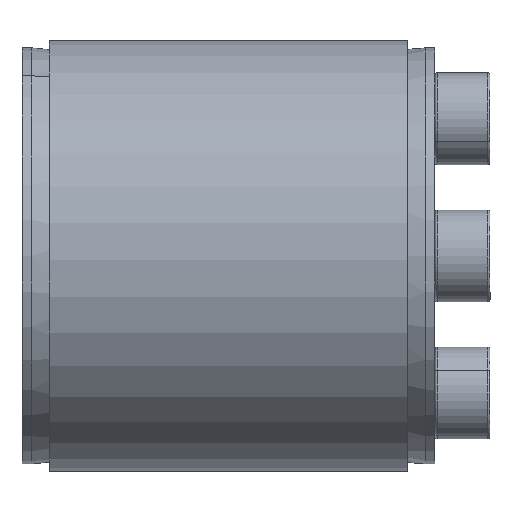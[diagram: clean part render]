
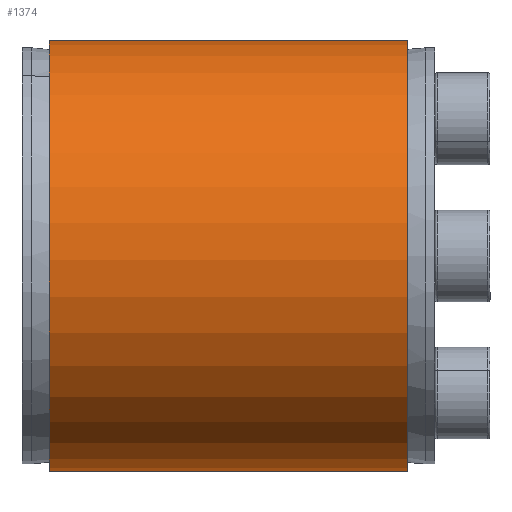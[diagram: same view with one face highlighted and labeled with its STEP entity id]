
A CAD part, front view. The second image highlights one B-rep face of the part: STEP entity #1374.
In plain terms, the highlighted cylindrical face has radius 23.5 mm (diameter 47 mm), a partial arc.
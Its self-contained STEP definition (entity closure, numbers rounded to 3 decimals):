
#38 = ORIENTED_EDGE ( 'NONE', *, *, #896, .F. ) ;
#43 = VECTOR ( 'NONE', #5703, 1000. ) ;
#149 = LINE ( 'NONE', #3879, #3641 ) ;
#263 = VERTEX_POINT ( 'NONE', #406 ) ;
#406 = CARTESIAN_POINT ( 'NONE',  ( -19.5, -1., 23.479 ) ) ;
#758 = CIRCLE ( 'NONE', #4268, 23.5 ) ;
#816 = CARTESIAN_POINT ( 'NONE',  ( -34.186, 0., 0. ) ) ;
#829 = AXIS2_PLACEMENT_3D ( 'NONE', #816, #2124, #2554 ) ;
#871 = CARTESIAN_POINT ( 'NONE',  ( -34.186, 1., 23.479 ) ) ;
#879 = ORIENTED_EDGE ( 'NONE', *, *, #2741, .F. ) ;
#896 = EDGE_CURVE ( 'NONE', #263, #1810, #149, .T. ) ;
#1027 = CYLINDRICAL_SURFACE ( 'NONE', #829, 23.5 ) ;
#1047 = EDGE_CURVE ( 'NONE', #4207, #1810, #758, .T. ) ;
#1374 = ADVANCED_FACE ( 'NONE', ( #3782 ), #1027, .T. ) ;
#1485 = CARTESIAN_POINT ( 'NONE',  ( 19.5, -1., 23.479 ) ) ;
#1716 = DIRECTION ( 'NONE',  ( 1., 0., 0. ) ) ;
#1810 = VERTEX_POINT ( 'NONE', #1485 ) ;
#2124 = DIRECTION ( 'NONE',  ( -1., 0., 0. ) ) ;
#2257 = DIRECTION ( 'NONE',  ( -1., 0., 0. ) ) ;
#2337 = DIRECTION ( 'NONE',  ( -1., 0., 0. ) ) ;
#2554 = DIRECTION ( 'NONE',  ( 0., 0., 1. ) ) ;
#2741 = EDGE_CURVE ( 'NONE', #4207, #4822, #4718, .T. ) ;
#2999 = EDGE_CURVE ( 'NONE', #4822, #263, #5686, .T. ) ;
#3041 = EDGE_LOOP ( 'NONE', ( #879, #3777, #38, #5281 ) ) ;
#3287 = CARTESIAN_POINT ( 'NONE',  ( 19.5, 1., 23.479 ) ) ;
#3641 = VECTOR ( 'NONE', #1716, 1000. ) ;
#3777 = ORIENTED_EDGE ( 'NONE', *, *, #1047, .T. ) ;
#3782 = FACE_OUTER_BOUND ( 'NONE', #3041, .T. ) ;
#3879 = CARTESIAN_POINT ( 'NONE',  ( -34.186, -1., 23.479 ) ) ;
#4207 = VERTEX_POINT ( 'NONE', #3287 ) ;
#4268 = AXIS2_PLACEMENT_3D ( 'NONE', #5440, #2337, #4983 ) ;
#4670 = CARTESIAN_POINT ( 'NONE',  ( -19.5, 1., 23.479 ) ) ;
#4718 = LINE ( 'NONE', #871, #43 ) ;
#4822 = VERTEX_POINT ( 'NONE', #4670 ) ;
#4905 = CARTESIAN_POINT ( 'NONE',  ( -19.5, 0., 0. ) ) ;
#4983 = DIRECTION ( 'NONE',  ( 0., 0., 1. ) ) ;
#5281 = ORIENTED_EDGE ( 'NONE', *, *, #2999, .F. ) ;
#5361 = DIRECTION ( 'NONE',  ( 0., 0., 1. ) ) ;
#5370 = AXIS2_PLACEMENT_3D ( 'NONE', #4905, #2257, #5361 ) ;
#5440 = CARTESIAN_POINT ( 'NONE',  ( 19.5, 0., 0. ) ) ;
#5686 = CIRCLE ( 'NONE', #5370, 23.5 ) ;
#5703 = DIRECTION ( 'NONE',  ( -1., 0., 0. ) ) ;
